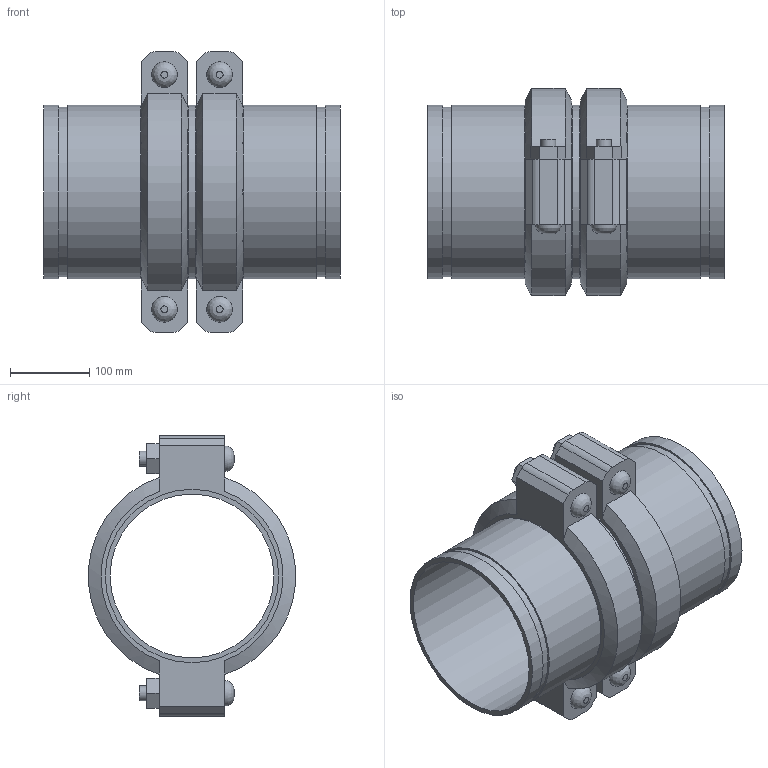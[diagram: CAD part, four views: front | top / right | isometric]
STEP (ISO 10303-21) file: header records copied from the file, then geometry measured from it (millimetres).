
FILE_DESCRIPTION(/* description */ ('VIC SS EXPANSION JOINT 2 COUPLINGS COMPRESSED STYLE 155P (OGS) (POTABLE WATER) ','CAx-IF Rec.Pracs.---Representation and Presentation of Product Manufacturing Information (PMI)---4.0---2014-10-13'),/* implementation_level */ '2;1');
FILE_NAME(/* name */ 'C:\Users\kkamble\AppData\Roaming\Autodesk\ApplicationPlugins\Victaulic.Temp\A462\Victaulic_SS_Expansion Joint_Compressed_2 Couplings_Style 155P (OGS)-Potable Water_2 Coup_Comp_8 (200).stp',/* time_stamp */ '2021-07-16T17:09:44+06:00',/* author */ ('kkamble'),/* organization */ ('Victaulic'),/* preprocessor_version */ 'ST-DEVELOPER v17.2',/* originating_system */ 'Autodesk Inventor 2019',/* authorisation */ '');
FILE_SCHEMA (('AP242_MANAGED_MODEL_BASED_3D_ENGINEERING_MIM_LF { 1 0 10303 442 1 1 4 }'));
Length unit declared in the file: inch
Products named in the file (4): 155P-08.0; Nipple-08.0; Nipple-08.0_1; 075-08.0
Assembly tree (5 placements, depth 2):
  155P-08.0
    Nipple-08.0  x2
    Nipple-08.0_1
    075-08.0  x2
Bounding box: 374.65 x 261.72 x 354.84 mm (x, y, z)
Volume: 4173066 mm3; surface area: 878143.1 mm2
Topology: 5 solids, 9 shells, 142 faces, 344 edges, 244 vertices
Faces by surface type: plane 86, cylinder 44, cone 8, bspline 4
Full cylindrical faces by diameter (mm): 19.05 x8, 21.209 x4, 206.985 x3, 214.401 x6, 219.075 x11
Entity records: 2641 total; most frequent: CARTESIAN_POINT 475, DIRECTION 435, ORIENTED_EDGE 374, EDGE_CURVE 187, AXIS2_PLACEMENT_3D 172, VERTEX_POINT 134, EDGE_LOOP 101, LINE 91
